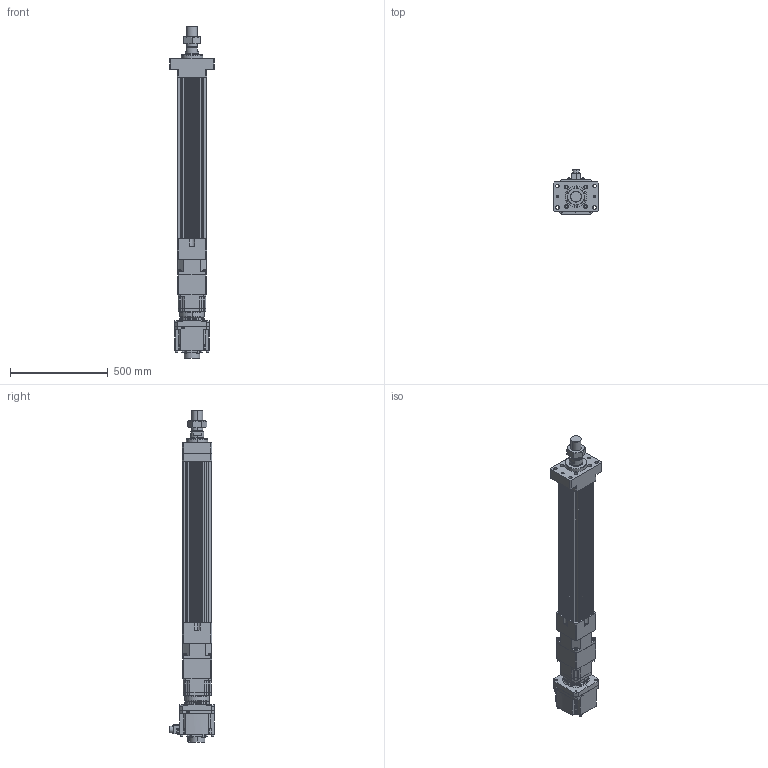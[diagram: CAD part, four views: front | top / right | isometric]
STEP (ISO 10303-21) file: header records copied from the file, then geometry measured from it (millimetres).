
FILE_DESCRIPTION (( 'STEP AP203' ), '1' );
FILE_NAME ('HES150NS(HS)-S550-W035G00-M-FM.STEP', '2023-02-01T04:45:05', ( 'tms' ), ( '' ), 'SwSTEP 2.0', 'SolidWorks 2013', '' );
FILE_SCHEMA (( 'CONFIG_CONTROL_DESIGN' ));
Length unit declared in the file: millimetre
Products named in the file (9): P0403500801; AB142-003[HG-SR352]; HES150NS(HS)-S550-W035G00-M-FM; M56X2.0P; HES150 ROD M ST550; AB1421; HES150-S550-G142-FM; P1301500001; HG-SR352
Assembly tree (8 placements, depth 3):
  HES150NS(HS)-S550-W035G00-M-FM
    HES150-S550-G142-FM
    HES150 ROD M ST550
    M56X2.0P
    AB142-003[HG-SR352]
      AB1421
      P1301500001
      P0403500801
    HG-SR352
Bounding box: 230 x 228.85 x 1697.5 mm (x, y, z)
Volume: 19367758.1 mm3; surface area: 2113506.3 mm2
Topology: 5 solids, 23 shells, 1508 faces, 3908 edges, 2538 vertices
Faces by surface type: cylinder 687, plane 587, cone 152, bspline 76, torus 6
Entity records: 55082 total; most frequent: CARTESIAN_POINT 16753, DIRECTION 8014, ORIENTED_EDGE 7718, EDGE_CURVE 3881, AXIS2_PLACEMENT_3D 3024, VERTEX_POINT 2538, LINE 1966, VECTOR 1966
